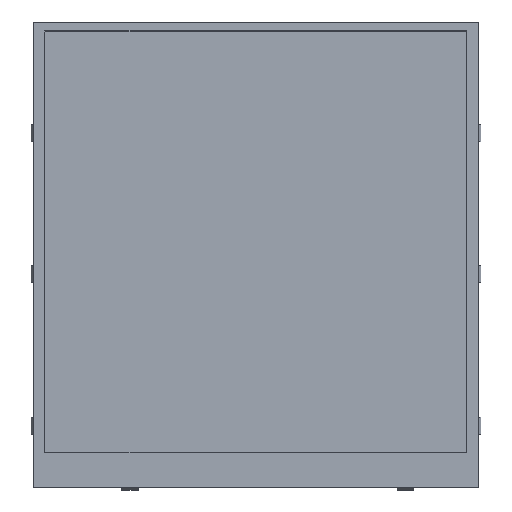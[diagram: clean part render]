
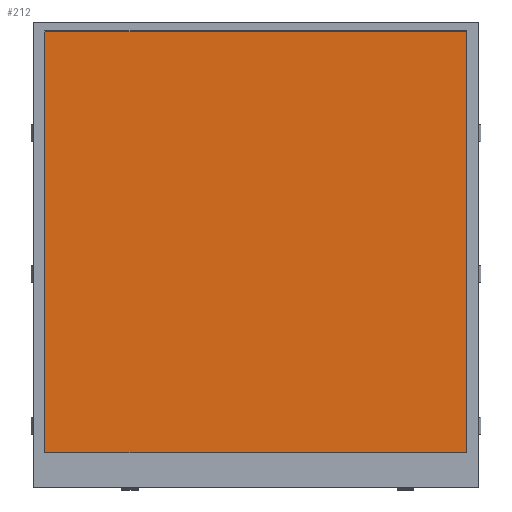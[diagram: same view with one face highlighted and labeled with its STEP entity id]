
A CAD part, top view. The second image highlights one B-rep face of the part: STEP entity #212.
In plain terms, the highlighted planar face has unit normal (0, 0, 1).
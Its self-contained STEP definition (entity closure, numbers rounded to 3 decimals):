
#85=DIRECTION('',(0.,-1.,0.));
#86=VECTOR('',#85,82.);
#87=CARTESIAN_POINT('',(-38.99,41.,2.));
#88=LINE('',#87,#86);
#92=DIRECTION('',(-1.,0.,0.));
#93=VECTOR('',#92,77.98);
#94=CARTESIAN_POINT('',(38.99,41.,2.));
#95=LINE('',#94,#93);
#99=DIRECTION('',(0.,1.,0.));
#100=VECTOR('',#99,82.);
#101=CARTESIAN_POINT('',(38.99,-41.,2.));
#102=LINE('',#101,#100);
#106=DIRECTION('',(1.,0.,0.));
#107=VECTOR('',#106,77.98);
#108=CARTESIAN_POINT('',(-38.99,-41.,2.));
#109=LINE('',#108,#107);
#121=CARTESIAN_POINT('',(-38.99,41.,2.));
#122=CARTESIAN_POINT('',(-38.99,-41.,2.));
#123=VERTEX_POINT('',#121);
#124=VERTEX_POINT('',#122);
#125=CARTESIAN_POINT('',(38.99,-41.,2.));
#126=VERTEX_POINT('',#125);
#127=CARTESIAN_POINT('',(38.99,41.,2.));
#128=VERTEX_POINT('',#127);
#201=CARTESIAN_POINT('',(0.,0.,2.));
#202=DIRECTION('',(0.,0.,1.));
#203=DIRECTION('',(1.,0.,0.));
#204=AXIS2_PLACEMENT_3D('',#201,#202,#203);
#205=PLANE('',#204);
#206=ORIENTED_EDGE('',*,*,#153,.F.);
#207=ORIENTED_EDGE('',*,*,#168,.F.);
#208=ORIENTED_EDGE('',*,*,#182,.F.);
#209=ORIENTED_EDGE('',*,*,#195,.F.);
#210=EDGE_LOOP('',(#206,#207,#208,#209));
#211=FACE_OUTER_BOUND('',#210,.F.);
#153=EDGE_CURVE('',#123,#124,#88,.T.);
#168=EDGE_CURVE('',#128,#123,#95,.T.);
#182=EDGE_CURVE('',#126,#128,#102,.T.);
#195=EDGE_CURVE('',#124,#126,#109,.T.);
#212=ADVANCED_FACE('',(#211),#205,.T.);
